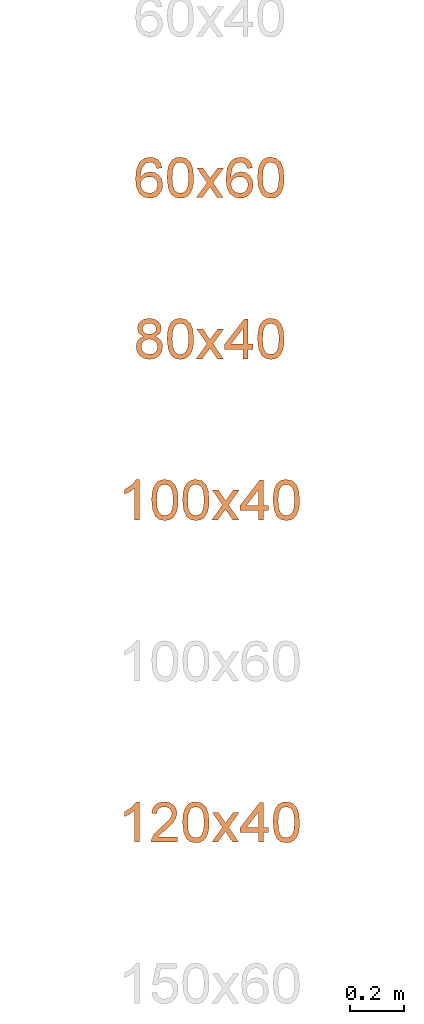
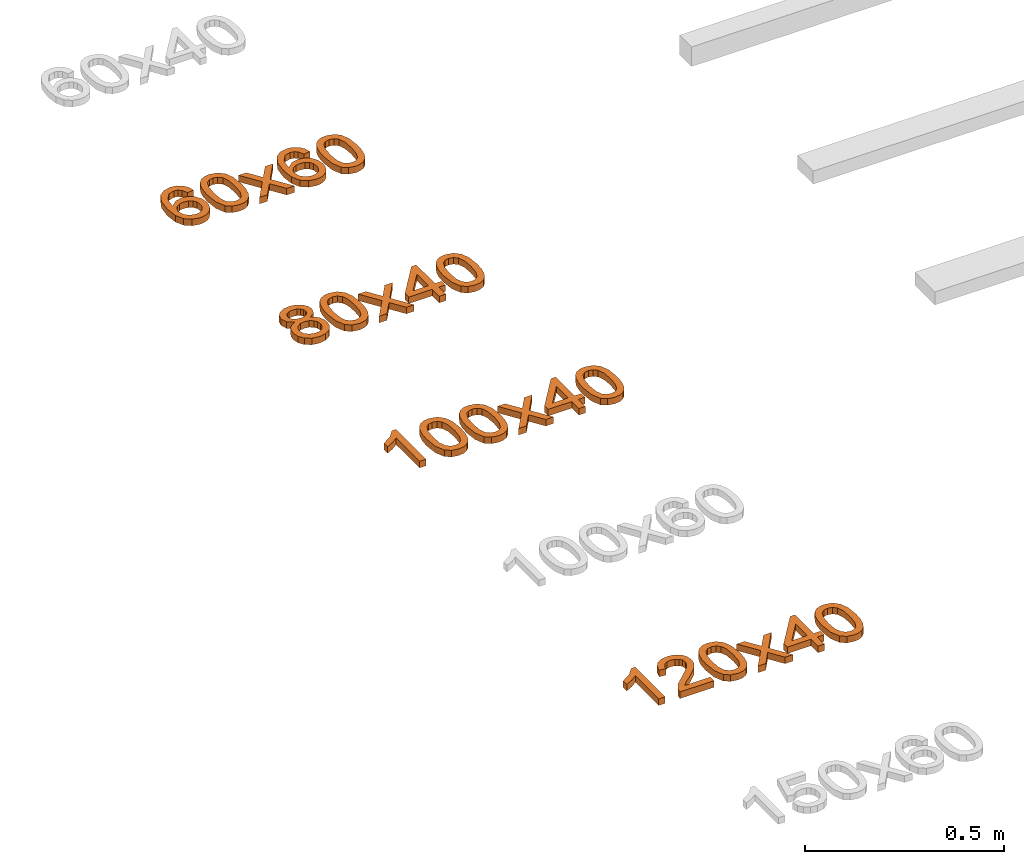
# One storey, part 39 of 71: 4 proxies.
"""IFC2X3 building model written with IfcOpenShell, lengths in millimetres."""

from ifc_helpers import new_model, entity, si_unit, converted_unit, derived_unit, direction, frame, origin, place, context, subcontext, project, spatial, polyline, outline, extrude, element, save


model = new_model("IFC2X3")

# Units and contexts
model_context = context("Model", 3, precision=0.01, world=origin(), true_north=direction((6.12303176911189e-17, 1.0)))
body_context = subcontext(model_context, "Body", "Model", "MODEL_VIEW")
ifc_project = project(units=[si_unit("LENGTHUNIT", "METRE", prefix="MILLI"), si_unit("AREAUNIT", "SQUARE_METRE"), si_unit("VOLUMEUNIT", "CUBIC_METRE"), converted_unit("PLANEANGLEUNIT", "DEGREE", entity("IfcRatioMeasure", 0.0174532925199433), si_unit("PLANEANGLEUNIT", "RADIAN"), dimensions=[0, 0, 0, 0, 0, 0, 0]), si_unit("MASSUNIT", "GRAM", prefix="KILO"), derived_unit("MASSDENSITYUNIT", [(si_unit("MASSUNIT", "GRAM", prefix="KILO"), 1), (si_unit("LENGTHUNIT", "METRE"), -3)]), si_unit("TIMEUNIT", "SECOND"), si_unit("FREQUENCYUNIT", "HERTZ"), si_unit("THERMODYNAMICTEMPERATUREUNIT", "DEGREE_CELSIUS"), derived_unit("THERMALTRANSMITTANCEUNIT", [(si_unit("MASSUNIT", "GRAM", prefix="KILO"), 1), (si_unit("THERMODYNAMICTEMPERATUREUNIT", "KELVIN"), -1), (si_unit("TIMEUNIT", "SECOND"), -3)]), derived_unit("VOLUMETRICFLOWRATEUNIT", [(si_unit("LENGTHUNIT", "METRE"), 3), (si_unit("TIMEUNIT", "SECOND"), -1)]), si_unit("ELECTRICCURRENTUNIT", "AMPERE"), si_unit("ELECTRICVOLTAGEUNIT", "VOLT"), si_unit("POWERUNIT", "WATT"), si_unit("FORCEUNIT", "NEWTON", prefix="KILO"), si_unit("ILLUMINANCEUNIT", "LUX"), si_unit("LUMINOUSFLUXUNIT", "LUMEN"), si_unit("LUMINOUSINTENSITYUNIT", "CANDELA"), derived_unit("USERDEFINED", [(si_unit("MASSUNIT", "GRAM", prefix="KILO"), -1), (si_unit("LENGTHUNIT", "METRE"), -2), (si_unit("TIMEUNIT", "SECOND"), 3), (si_unit("LUMINOUSFLUXUNIT", "LUMEN"), 1)]), derived_unit("LINEARVELOCITYUNIT", [(si_unit("LENGTHUNIT", "METRE"), 1), (si_unit("TIMEUNIT", "SECOND"), -1)]), si_unit("PRESSUREUNIT", "PASCAL"), derived_unit("USERDEFINED", [(si_unit("LENGTHUNIT", "METRE"), -2), (si_unit("MASSUNIT", "GRAM", prefix="KILO"), 1), (si_unit("TIMEUNIT", "SECOND"), -2)])], contexts=[model_context])

# Site, building, storey
site_placement = place(None, origin())
site = spatial("IfcSite", under=ifc_project, at=site_placement, Name="Default", CompositionType="ELEMENT")
building_placement = place(site_placement, origin())
building = spatial("IfcBuilding", under=site, at=building_placement, Name="Наименование здания", CompositionType="ELEMENT")
storey_placement = place(building_placement, origin())
storey = spatial("IfcBuildingStorey", under=building, at=storey_placement, Name="Этаж 01", CompositionType="ELEMENT", Elevation=0.0)

# Proxies
proxy_1_placement = place(storey_placement, origin())
element("IfcBuildingElementProxy", 1, at=proxy_1_placement, inside=storey, Name="Текст модели:150 мм Arial", ObjectType="Текст модели:150 мм Arial", context=body_context, shape_type="SweptSolid", body=[
    extrude(outline(polyline([(15.7651813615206, -48.1860315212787), (33.1249071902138, -48.1860315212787), (47.804831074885, -42.6335730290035), (59.0229904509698, -32.0086730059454), (65.9974227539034, -16.7913484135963), (67.6956688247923, 5.42313881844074), (59.7847369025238, 25.1274854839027), (38.3660112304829, 43.8886230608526), (3.31349801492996, 57.8763217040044), (-29.8328194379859, 63.2095238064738), (-54.3960837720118, 58.4629251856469), (-71.1715692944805, 45.4506503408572), (-80.9545503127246, 25.986823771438), (-82.9064235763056, 12.9662485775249), (-81.3947830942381, 0.493900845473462), (-76.4834467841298, -10.9544464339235), (-68.2362325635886, -20.9030202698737), (-57.43187982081, -28.7352219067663), (-44.849127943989, -33.8344525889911), (-25.3638110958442, -35.8072168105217), (-7.8909549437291, -30.3701056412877), (5.71390440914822, -18.9845116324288), (13.5952308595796, -3.11182733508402), (14.3582977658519, 18.0352208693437), (4.31104064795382, 38.0547274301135), (22.7539705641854, 31.4415369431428), (35.2322018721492, 23.9328881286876), (48.3021991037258, 6.96962517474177), (48.1600772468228, -10.6274852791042), (43.5144203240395, -20.0577002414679), (35.5694879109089, -26.7223178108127), (18.5256041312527, -29.4056766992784), (15.7651813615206, -48.1860315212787)]), holes=[polyline([(-22.561957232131, 45.5005718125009), (-11.8731662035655, 40.1101370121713), (-4.83626080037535, 30.873880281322), (-1.82438885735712, 19.269463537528), (-3.21069820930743, 6.77454869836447), (-8.64892762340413, -5.36116347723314), (-17.0855588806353, -13.3353919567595), (-27.8876946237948, -16.8272321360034), (-40.4224374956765, -15.5157794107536), (-52.3381234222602, -10.02399118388), (-60.2195132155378, -1.26951526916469), (-63.6992427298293, 9.83465865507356), (-62.4099478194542, 22.3755409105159), (-53.9591253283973, 37.6514284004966), (-39.4491697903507, 45.6559566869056), (-22.561957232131, 45.5005718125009)])]), frame((-460.531488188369, -438.012924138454, 0.0), z_axis=(0.0, 0.0, 1.0), x_axis=(-0.267015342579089, 0.963692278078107, 0.0)), (0.0, 0.0, 1.0), 20.0),
    extrude(outline(polyline([(-5.36864641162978, -49.447527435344), (31.473189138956, -49.447527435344), (57.9722440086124, -40.8445682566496), (70.1905944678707, -27.1554040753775), (75.7521595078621, -8.05118638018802), (75.248921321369, 7.30564672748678), (70.3444850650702, 20.2193667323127), (60.97866217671, 30.7793421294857), (47.0912640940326, 39.0749414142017), (28.4201328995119, 45.1191376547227), (4.70311067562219, 48.924903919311), (-30.869857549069, 49.1278168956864), (-53.9468348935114, 42.6152057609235), (-69.4194337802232, 28.9263997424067), (-76.4908890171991, 7.53605673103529), (-75.9929440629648, -7.73702828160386), (-71.1268691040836, -20.6190853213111), (-61.8036228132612, -31.1885692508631), (-47.9341638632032, -39.5239349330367), (-29.221501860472, -45.6139863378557), (-5.36864641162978, -49.447527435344)]), holes=[polyline([(-3.48681337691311, -30.7061745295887), (-32.34902840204, -25.4583554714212), (-49.9139452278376, -16.7816147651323), (-56.4697700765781, -6.58792162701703), (-57.7757646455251, 5.39804548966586), (-53.6620197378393, 17.494767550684), (-44.1234912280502, 26.4104625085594), (-26.2801372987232, 31.0181988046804), (2.74808386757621, 30.1910448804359), (31.9517393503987, 24.982228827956), (48.3451643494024, 16.6473131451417), (55.5066665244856, 6.00331299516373), (57.0145535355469, -6.13275645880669), (53.0878028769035, -17.7124062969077), (43.9453920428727, -26.6871475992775), (26.212220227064, -31.5280478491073), (-3.48681337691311, -30.7061745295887)])]), frame((-349.731782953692, -446.788835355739, 0.0), z_axis=(0.0, 0.0, 1.0), x_axis=(0.101851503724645, -0.994799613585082, 0.0)), (0.0, 0.0, 1.0), 20.0),
    extrude(outline(polyline([(-51.7953323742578, -57.6397510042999), (-29.1338014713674, -57.6397510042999), (-0.512582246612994, -18.0924365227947), (3.7180606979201, -24.1992776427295), (26.784261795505, -57.6397510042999), (49.4457926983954, -57.6397510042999), (11.1124888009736, -2.01599333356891), (50.9173206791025, 53.0191531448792), (28.2557897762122, 53.0191531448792), (7.43366884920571, 24.2507811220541), (0.0392407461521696, 14.0236616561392), (-8.49562154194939, 26.5316494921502), (-26.7793567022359, 53.0191531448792), (-49.4408876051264, 53.0191531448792), (-11.5490421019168, -2.01599333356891), (-51.7953323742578, -57.6397510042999)])), frame((-239.369177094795, -462.972884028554, 0.0)), (0.0, 0.0, 1.0), 20.0),
    extrude(outline(polyline([(15.7651813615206, -48.1860315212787), (33.1249071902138, -48.1860315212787), (47.804831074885, -42.6335730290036), (59.0229904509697, -32.0086730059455), (65.9974227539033, -16.7913484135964), (67.6956688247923, 5.42313881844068), (59.7847369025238, 25.1274854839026), (38.3660112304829, 43.8886230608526), (3.31349801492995, 57.8763217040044), (-29.8328194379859, 63.2095238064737), (-54.3960837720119, 58.4629251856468), (-71.1715692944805, 45.4506503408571), (-80.9545503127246, 25.9868237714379), (-82.9064235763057, 12.9662485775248), (-81.3947830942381, 0.493900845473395), (-76.4834467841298, -10.9544464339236), (-68.2362325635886, -20.9030202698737), (-57.43187982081, -28.7352219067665), (-44.8491279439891, -33.8344525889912), (-25.3638110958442, -35.8072168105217), (-7.89095494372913, -30.3701056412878), (5.7139044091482, -18.9845116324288), (13.5952308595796, -3.11182733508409), (14.3582977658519, 18.0352208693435), (4.3110406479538, 38.0547274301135), (22.7539705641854, 31.4415369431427), (35.2322018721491, 23.9328881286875), (48.3021991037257, 6.96962517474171), (48.1600772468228, -10.6274852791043), (43.5144203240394, -20.057700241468), (35.5694879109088, -26.7223178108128), (18.5256041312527, -29.4056766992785), (15.7651813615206, -48.1860315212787)]), holes=[polyline([(-22.561957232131, 45.5005718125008), (-11.8731662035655, 40.1101370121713), (-4.83626080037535, 30.873880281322), (-1.82438885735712, 19.269463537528), (-3.21069820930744, 6.7745486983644), (-8.64892762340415, -5.36116347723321), (-17.0855588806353, -13.3353919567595), (-27.8876946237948, -16.8272321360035), (-40.4224374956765, -15.5157794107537), (-52.3381234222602, -10.0239911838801), (-60.2195132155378, -1.26951526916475), (-63.6992427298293, 9.83465865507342), (-62.4099478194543, 22.3755409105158), (-53.9591253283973, 37.6514284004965), (-39.4491697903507, 45.6559566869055), (-22.561957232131, 45.5005718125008)])]), frame((-123.845886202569, -438.012924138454, 0.0), z_axis=(0.0, 0.0, 1.0), x_axis=(-0.267015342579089, 0.963692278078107, 0.0)), (0.0, 0.0, 1.0), 20.0),
    extrude(outline(polyline([(-5.36864641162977, -49.4475274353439), (31.473189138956, -49.4475274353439), (57.9722440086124, -40.8445682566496), (70.1905944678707, -27.1554040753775), (75.7521595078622, -8.05118638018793), (75.248921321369, 7.30564672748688), (70.3444850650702, 20.2193667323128), (60.97866217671, 30.7793421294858), (47.0912640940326, 39.0749414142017), (28.4201328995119, 45.1191376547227), (4.7031106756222, 48.924903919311), (-30.869857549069, 49.1278168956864), (-53.9468348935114, 42.6152057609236), (-69.4194337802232, 28.9263997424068), (-76.4908890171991, 7.53605673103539), (-75.9929440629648, -7.73702828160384), (-71.1268691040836, -20.619085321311), (-61.8036228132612, -31.188569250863), (-47.9341638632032, -39.5239349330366), (-29.221501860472, -45.6139863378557), (-5.36864641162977, -49.4475274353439)]), holes=[polyline([(-3.4868133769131, -30.7061745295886), (-32.34902840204, -25.4583554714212), (-49.9139452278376, -16.7816147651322), (-56.4697700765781, -6.58792162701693), (-57.775764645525, 5.39804548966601), (-53.6620197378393, 17.4947675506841), (-44.1234912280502, 26.4104625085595), (-26.2801372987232, 31.0181988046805), (2.74808386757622, 30.191044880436), (31.9517393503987, 24.9822288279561), (48.3451643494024, 16.6473131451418), (55.5066665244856, 6.00331299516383), (57.0145535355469, -6.1327564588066), (53.0878028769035, -17.7124062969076), (43.9453920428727, -26.6871475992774), (26.212220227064, -31.5280478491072), (-3.4868133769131, -30.7061745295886)])]), frame((-13.0461809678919, -446.788835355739, 0.0), z_axis=(0.0, 0.0, 1.0), x_axis=(0.101851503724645, -0.994799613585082, 0.0)), (0.0, 0.0, 1.0), 20.0),
])
proxy_2_placement = place(storey_placement, origin())
element("IfcBuildingElementProxy", 2, at=proxy_2_placement, inside=storey, Name="Текст модели:150 мм Arial", ObjectType="Текст модели:150 мм Arial", context=body_context, shape_type="SweptSolid", body=[
    extrude(outline(polyline([(17.249022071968, -15.3295381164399), (30.0349856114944, -15.3295381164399), (41.3817836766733, -11.1735131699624), (50.8793866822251, -3.10065381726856), (58.1177650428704, 8.64984940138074), (62.52743542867, 26.7590924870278), (59.3759035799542, 44.6472980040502), (49.1101665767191, 60.2581523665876), (32.1772214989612, 71.5353419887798), (12.508529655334, 76.7266949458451), (-5.96444764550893, 74.0800393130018), (-21.3768762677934, 64.6931270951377), (-31.8639220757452, 49.6637102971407), (-35.7012049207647, 36.9439614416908), (-35.5988562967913, 24.6212096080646), (-31.5092444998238, 13.1378871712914), (-23.3847378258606, 2.93642650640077), (-43.3753141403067, -0.843069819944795), (-55.6693480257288, -14.7778571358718), (-58.914337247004, -29.533523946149), (-55.5267704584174, -44.6086407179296), (-45.8768386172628, -58.1125066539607), (-30.3347326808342, -68.1544209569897), (-12.6345533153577, -73.1263902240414), (3.62381436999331, -71.4807545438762), (16.9172275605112, -64.1159404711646), (25.7225434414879, -51.9303745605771), (28.1053988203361, -33.0360683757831), (17.249022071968, -15.3295381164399)]), holes=[polyline([(8.76920273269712, -43.7043792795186), (4.16714657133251, -49.8033212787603), (-3.06267131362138, -53.4706515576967), (-12.2805835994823, -54.0460623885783), (-22.8469229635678, -50.8692460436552), (-32.1606477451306, -45.0741480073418), (-37.8220396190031, -37.7042135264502), (-39.8160813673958, -29.6232964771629), (-38.1277557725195, -21.6952507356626), (-33.488030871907, -15.4115704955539), (-26.3563739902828, -11.6597799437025), (-17.2378531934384, -11.0699406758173), (-6.63753654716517, -14.2721142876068), (3.02911931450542, -20.1905718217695), (8.74268775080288, -27.4780836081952), (10.6178288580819, -35.5206769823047), (8.76920273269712, -43.7043792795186)]), polyline([(40.666673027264, 15.7685663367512), (34.3444111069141, 6.5607294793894), (25.2119844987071, 0.81435470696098), (14.0709024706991, -0.741832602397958), (1.72267429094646, 2.62089292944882), (-9.27548616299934, 9.78324579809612), (-15.7623950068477, 19.3544397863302), (-17.6688539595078, 30.2546773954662), (-14.9256647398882, 41.404161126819), (-8.54368457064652, 50.7111976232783), (0.617063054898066, 56.4196324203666), (11.8179427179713, 57.8733123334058), (24.3203189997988, 54.4160841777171), (37.8139573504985, 44.2362363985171), (43.6124557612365, 29.993219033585), (40.666673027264, 15.7685663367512)])]), frame((-465.375028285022, -1044.52806910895, 0.0), z_axis=(0.0, 0.0, 1.0), x_axis=(-0.912082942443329, -0.410005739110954, 0.0)), (0.0, 0.0, 1.0), 20.0),
    extrude(outline(polyline([(-5.36864641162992, -49.447527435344), (31.4731891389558, -49.447527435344), (57.9722440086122, -40.8445682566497), (70.1905944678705, -27.1554040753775), (75.752159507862, -8.05118638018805), (75.2489213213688, 7.30564672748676), (70.3444850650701, 20.2193667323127), (60.9786621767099, 30.7793421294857), (47.0912640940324, 39.0749414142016), (28.4201328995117, 45.1191376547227), (4.70311067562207, 48.924903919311), (-30.8698575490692, 49.1278168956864), (-53.9468348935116, 42.6152057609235), (-69.4194337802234, 28.9263997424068), (-76.4908890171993, 7.53605673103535), (-75.992944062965, -7.7370282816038), (-71.1268691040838, -20.6190853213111), (-61.8036228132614, -31.1885692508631), (-47.9341638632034, -39.5239349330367), (-29.2215018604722, -45.6139863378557), (-5.36864641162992, -49.447527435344)]), holes=[polyline([(-3.48681337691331, -30.7061745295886), (-32.3490284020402, -25.4583554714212), (-49.9139452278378, -16.7816147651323), (-56.4697700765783, -6.58792162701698), (-57.7757646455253, 5.39804548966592), (-53.6620197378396, 17.4947675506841), (-44.1234912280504, 26.4104625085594), (-26.2801372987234, 31.0181988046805), (2.74808386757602, 30.1910448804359), (31.9517393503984, 24.982228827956), (48.3451643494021, 16.6473131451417), (55.5066665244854, 6.00331299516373), (57.0145535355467, -6.1327564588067), (53.0878028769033, -17.7124062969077), (43.9453920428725, -26.6871475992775), (26.2122202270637, -31.5280478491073), (-3.48681337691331, -30.7061745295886)])]), frame((-349.731782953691, -1046.78883535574, 0.0), z_axis=(0.0, 0.0, 1.0), x_axis=(0.101851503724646, -0.994799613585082, 0.0)), (0.0, 0.0, 1.0), 20.0),
    extrude(outline(polyline([(-51.7953323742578, -57.6397510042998), (-29.1338014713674, -57.6397510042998), (-0.512582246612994, -18.0924365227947), (3.7180606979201, -24.1992776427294), (26.784261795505, -57.6397510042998), (49.4457926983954, -57.6397510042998), (11.1124888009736, -2.01599333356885), (50.9173206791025, 53.0191531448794), (28.2557897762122, 53.0191531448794), (7.43366884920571, 24.2507811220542), (0.0392407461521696, 14.0236616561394), (-8.49562154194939, 26.5316494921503), (-26.7793567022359, 53.0191531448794), (-49.4408876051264, 53.0191531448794), (-11.5490421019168, -2.01599333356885), (-51.7953323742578, -57.6397510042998)])), frame((-239.369177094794, -1062.97288402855, 0.0)), (0.0, 0.0, 1.0), 20.0),
    extrude(outline(polyline([(-1.71232346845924, -54.5803105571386), (17.1232346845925, -54.5803105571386), (17.1232346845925, -19.2636390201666), (35.9587928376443, -19.2636390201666), (35.9587928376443, -0.428080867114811), (17.1232346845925, -0.428080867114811), (17.1232346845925, 93.7497098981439), (2.99656606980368, 93.7497098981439), (-69.9912217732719, -0.428080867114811), (-69.9912217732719, -19.2636390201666), (-1.71232346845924, -19.2636390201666), (-1.71232346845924, -54.5803105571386)]), holes=[polyline([(-1.71232346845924, -0.428080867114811), (-46.814656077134, -0.428080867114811), (-1.71232346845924, 57.7708507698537), (-1.71232346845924, -0.428080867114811)])]), frame((-115.223273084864, -1066.03232447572, 0.0)), (0.0, 0.0, 1.0), 20.0),
    extrude(outline(polyline([(-5.36864641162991, -49.4475274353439), (31.4731891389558, -49.4475274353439), (57.9722440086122, -40.8445682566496), (70.1905944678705, -27.1554040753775), (75.752159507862, -8.05118638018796), (75.2489213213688, 7.30564672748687), (70.3444850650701, 20.2193667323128), (60.9786621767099, 30.7793421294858), (47.0912640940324, 39.0749414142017), (28.4201328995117, 45.1191376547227), (4.70311067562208, 48.9249039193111), (-30.8698575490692, 49.1278168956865), (-53.9468348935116, 42.6152057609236), (-69.4194337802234, 28.9263997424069), (-76.4908890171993, 7.53605673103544), (-75.992944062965, -7.73702828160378), (-71.1268691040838, -20.619085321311), (-61.8036228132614, -31.188569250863), (-47.9341638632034, -39.5239349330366), (-29.2215018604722, -45.6139863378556), (-5.36864641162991, -49.4475274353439)]), holes=[polyline([(-3.4868133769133, -30.7061745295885), (-32.3490284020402, -25.4583554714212), (-49.9139452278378, -16.7816147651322), (-56.4697700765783, -6.58792162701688), (-57.7757646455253, 5.39804548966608), (-53.6620197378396, 17.4947675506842), (-44.1234912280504, 26.4104625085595), (-26.2801372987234, 31.0181988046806), (2.74808386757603, 30.191044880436), (31.9517393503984, 24.9822288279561), (48.3451643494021, 16.6473131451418), (55.5066665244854, 6.00331299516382), (57.0145535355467, -6.13275645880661), (53.0878028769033, -17.7124062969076), (43.9453920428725, -26.6871475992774), (26.2122202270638, -31.5280478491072), (-3.4868133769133, -30.7061745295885)])]), frame((-13.0461809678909, -1046.78883535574, 0.0), z_axis=(0.0, 0.0, 1.0), x_axis=(0.101851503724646, -0.994799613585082, 0.0)), (0.0, 0.0, 1.0), 20.0),
])
proxy_3_placement = place(storey_placement, origin())
element("IfcBuildingElementProxy", 3, at=proxy_3_placement, inside=storey, Name="Текст модели:150 мм Arial", ObjectType="Текст модели:150 мм Arial", context=body_context, shape_type="SweptSolid", body=[
    extrude(outline(polyline([(-95.8189532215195, -25.3777263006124), (54.8655120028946, -25.3777263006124), (54.8655120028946, -13.2376204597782), (34.8159432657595, 3.51940442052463), (17.1943956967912, 31.1289481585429), (-0.611092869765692, 31.1289481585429), (8.89865670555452, 11.3001086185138), (21.6089796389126, -6.54216814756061), (-95.8189532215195, -6.54216814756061), (-95.8189532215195, -25.3777263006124)])), frame((-527.265042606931, -1624.79368181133, 0.0), z_axis=(0.0, 0.0, 1.0), x_axis=(0.0, 1.0, 0.0)), (0.0, 0.0, 1.0), 20.0),
    extrude(outline(polyline([(-5.36864641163, -49.4475274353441), (31.4731891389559, -49.447527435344), (57.9722440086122, -40.8445682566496), (70.1905944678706, -27.1554040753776), (75.752159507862, -8.05118638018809), (75.2489213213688, 7.30564672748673), (70.34448506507, 20.2193667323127), (60.9786621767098, 30.7793421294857), (47.0912640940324, 39.0749414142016), (28.4201328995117, 45.1191376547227), (4.70311067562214, 48.924903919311), (-30.869857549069, 49.1278168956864), (-53.9468348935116, 42.6152057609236), (-69.4194337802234, 28.9263997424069), (-76.4908890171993, 7.53605673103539), (-75.9929440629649, -7.73702828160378), (-71.126869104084, -20.619085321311), (-61.8036228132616, -31.188569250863), (-47.9341638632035, -39.5239349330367), (-29.2215018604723, -45.6139863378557), (-5.36864641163, -49.4475274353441)]), holes=[polyline([(-3.48681337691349, -30.7061745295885), (-32.3490284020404, -25.4583554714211), (-49.9139452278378, -16.7816147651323), (-56.4697700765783, -6.58792162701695), (-57.7757646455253, 5.39804548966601), (-53.6620197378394, 17.4947675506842), (-44.1234912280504, 26.4104625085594), (-26.2801372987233, 31.0181988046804), (2.74808386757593, 30.1910448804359), (31.9517393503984, 24.9822288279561), (48.3451643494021, 16.6473131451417), (55.5066665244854, 6.0033129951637), (57.0145535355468, -6.13275645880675), (53.0878028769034, -17.7124062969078), (43.9453920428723, -26.6871475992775), (26.2122202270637, -31.5280478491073), (-3.48681337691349, -30.7061745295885)])]), frame((-407.415679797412, -1646.78883535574, 0.0), z_axis=(0.0, 0.0, 1.0), x_axis=(0.101851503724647, -0.994799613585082, 0.0)), (0.0, 0.0, 1.0), 20.0),
    extrude(outline(polyline([(-5.3686464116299, -49.447527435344), (31.473189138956, -49.447527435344), (57.9722440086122, -40.8445682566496), (70.1905944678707, -27.1554040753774), (75.752159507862, -8.05118638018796), (75.2489213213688, 7.30564672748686), (70.3444850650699, 20.2193667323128), (60.9786621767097, 30.7793421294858), (47.0912640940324, 39.0749414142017), (28.4201328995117, 45.1191376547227), (4.70311067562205, 48.924903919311), (-30.8698575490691, 49.1278168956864), (-53.9468348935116, 42.6152057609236), (-69.4194337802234, 28.9263997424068), (-76.4908890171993, 7.53605673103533), (-75.9929440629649, -7.7370282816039), (-71.1268691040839, -20.6190853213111), (-61.8036228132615, -31.1885692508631), (-47.9341638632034, -39.5239349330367), (-29.2215018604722, -45.6139863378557), (-5.3686464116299, -49.447527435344)]), holes=[polyline([(-3.48681337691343, -30.7061745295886), (-32.3490284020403, -25.4583554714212), (-49.9139452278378, -16.7816147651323), (-56.4697700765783, -6.58792162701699), (-57.7757646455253, 5.39804548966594), (-53.6620197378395, 17.4947675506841), (-44.1234912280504, 26.4104625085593), (-26.2801372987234, 31.0181988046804), (2.74808386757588, 30.191044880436), (31.9517393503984, 24.9822288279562), (48.3451643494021, 16.6473131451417), (55.5066665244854, 6.00331299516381), (57.0145535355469, -6.13275645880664), (53.0878028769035, -17.7124062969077), (43.9453920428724, -26.6871475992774), (26.2122202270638, -31.5280478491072), (-3.48681337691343, -30.7061745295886)])]), frame((-292.04788610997, -1646.78883535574, 0.0), z_axis=(0.0, 0.0, 1.0), x_axis=(0.101851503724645, -0.994799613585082, 0.0)), (0.0, 0.0, 1.0), 20.0),
    extrude(outline(polyline([(-51.7953323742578, -57.6397510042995), (-29.1338014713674, -57.6397510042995), (-0.512582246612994, -18.0924365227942), (3.71806069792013, -24.199277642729), (26.784261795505, -57.6397510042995), (49.4457926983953, -57.6397510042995), (11.1124888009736, -2.01599333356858), (50.9173206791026, 53.0191531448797), (28.2557897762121, 53.0191531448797), (7.43366884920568, 24.2507811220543), (0.0392407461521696, 14.0236616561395), (-8.49562154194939, 26.5316494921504), (-26.779356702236, 53.0191531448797), (-49.4408876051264, 53.0191531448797), (-11.5490421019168, -2.01599333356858), (-51.7953323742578, -57.6397510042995)])), frame((-181.685280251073, -1662.97288402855, 0.0)), (0.0, 0.0, 1.0), 20.0),
    extrude(outline(polyline([(-1.71232346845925, -54.5803105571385), (17.1232346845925, -54.5803105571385), (17.1232346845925, -19.2636390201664), (35.9587928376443, -19.2636390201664), (35.9587928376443, -0.428080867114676), (17.1232346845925, -0.428080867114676), (17.1232346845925, 93.7497098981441), (2.99656606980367, 93.7497098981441), (-69.9912217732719, -0.428080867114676), (-69.9912217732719, -19.2636390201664), (-1.71232346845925, -19.2636390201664), (-1.71232346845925, -54.5803105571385)]), holes=[polyline([(-1.71232346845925, -0.428080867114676), (-46.814656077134, -0.428080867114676), (-1.71232346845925, 57.7708507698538), (-1.71232346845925, -0.428080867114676)])]), frame((-57.5393762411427, -1666.03232447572, 0.0)), (0.0, 0.0, 1.0), 20.0),
    extrude(outline(polyline([(-5.36864641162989, -49.4475274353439), (31.473189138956, -49.4475274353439), (57.9722440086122, -40.8445682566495), (70.1905944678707, -27.1554040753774), (75.752159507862, -8.05118638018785), (75.2489213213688, 7.30564672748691), (70.3444850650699, 20.2193667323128), (60.9786621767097, 30.7793421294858), (47.0912640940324, 39.0749414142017), (28.4201328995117, 45.1191376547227), (4.70311067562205, 48.924903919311), (-30.8698575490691, 49.1278168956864), (-53.9468348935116, 42.6152057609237), (-69.4194337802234, 28.9263997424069), (-76.4908890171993, 7.53605673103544), (-75.9929440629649, -7.73702828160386), (-71.1268691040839, -20.619085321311), (-61.8036228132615, -31.188569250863), (-47.9341638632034, -39.5239349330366), (-29.2215018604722, -45.6139863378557), (-5.36864641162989, -49.4475274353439)]), holes=[polyline([(-3.48681337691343, -30.7061745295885), (-32.3490284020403, -25.4583554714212), (-49.9139452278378, -16.7816147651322), (-56.4697700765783, -6.58792162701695), (-57.7757646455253, 5.39804548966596), (-53.6620197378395, 17.4947675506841), (-44.1234912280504, 26.4104625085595), (-26.2801372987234, 31.0181988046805), (2.74808386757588, 30.191044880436), (31.9517393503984, 24.9822288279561), (48.3451643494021, 16.6473131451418), (55.5066665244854, 6.00331299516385), (57.0145535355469, -6.13275645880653), (53.0878028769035, -17.7124062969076), (43.9453920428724, -26.6871475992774), (26.2122202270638, -31.5280478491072), (-3.48681337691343, -30.7061745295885)])]), frame((44.6377158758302, -1646.78883535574, 0.0), z_axis=(0.0, 0.0, 1.0), x_axis=(0.101851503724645, -0.994799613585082, 0.0)), (0.0, 0.0, 1.0), 20.0),
])
proxy_4_placement = place(storey_placement, origin())
element("IfcBuildingElementProxy", 4, at=proxy_4_placement, inside=storey, Name="Текст модели:150 мм Arial", ObjectType="Текст модели:150 мм Arial", context=body_context, shape_type="SweptSolid", body=[
    extrude(outline(polyline([(-95.8189532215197, -25.3777263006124), (54.8655120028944, -25.3777263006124), (54.8655120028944, -13.2376204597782), (34.8159432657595, 3.51940442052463), (17.194395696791, 31.1289481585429), (-0.611092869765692, 31.1289481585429), (8.89865670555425, 11.3001086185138), (21.6089796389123, -6.54216814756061), (-95.8189532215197, -6.54216814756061), (-95.8189532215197, -25.3777263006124)])), frame((-527.265042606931, -2824.79368181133, 0.0), z_axis=(0.0, 0.0, 1.0), x_axis=(0.0, 1.0, 0.0)), (0.0, 0.0, 1.0), 20.0),
    extrude(outline(polyline([(-47.8510638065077, -72.8483486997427), (-47.8510638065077, -91.6839068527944), (51.0356164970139, -91.6839068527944), (49.0122655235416, -78.6976724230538), (37.5711354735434, -58.7032859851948), (13.989899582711, -36.8694895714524), (-18.5308687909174, -5.48915538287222), (-24.6285128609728, 5.32657527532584), (-26.6610608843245, 15.8480003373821), (-24.7434759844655, 25.2795749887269), (-18.9907212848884, 33.1200600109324), (-10.1477578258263, 38.4037651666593), (1.04045335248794, 40.165000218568), (12.7896845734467, 38.4451518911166), (21.9177565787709, 33.2856069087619), (27.8084670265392, 25.0910354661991), (29.8456135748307, 14.266107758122), (48.6811717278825, 16.6205525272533), (44.1148364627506, 34.8399083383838), (34.2418034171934, 48.1480395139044), (19.5771073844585, 56.2874286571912), (0.635783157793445, 59.0005583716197), (-18.4434968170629, 55.9839260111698), (-33.0806017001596, 46.9340289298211), (-42.3926147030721, 33.4143656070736), (-45.4966190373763, 16.9884345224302), (-42.1488928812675, -0.872236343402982), (-31.0204625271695, -19.3399125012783), (-4.03631818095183, -45.14683446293), (17.6319313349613, -63.265022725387), (26.1300054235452, -72.8483486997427), (-47.8510638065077, -72.8483486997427)])), frame((-408.471693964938, -2828.92872818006, 0.0), z_axis=(0.0, 0.0, -1.0), x_axis=(-1.0, 0.0, 0.0)), (0.0, 0.0, -1.0), 20.0),
    extrude(outline(polyline([(-5.36864641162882, -49.4475274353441), (31.473189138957, -49.4475274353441), (57.9722440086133, -40.8445682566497), (70.1905944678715, -27.1554040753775), (75.7521595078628, -8.05118638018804), (75.2489213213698, 7.30564672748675), (70.344485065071, 20.2193667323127), (60.9786621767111, 30.7793421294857), (47.0912640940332, 39.0749414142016), (28.420132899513, 45.1191376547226), (4.70311067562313, 48.9249039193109), (-30.8698575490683, 49.1278168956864), (-53.9468348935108, 42.6152057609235), (-69.4194337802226, 28.9263997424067), (-76.4908890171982, 7.53605673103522), (-75.992944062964, -7.73702828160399), (-71.1268691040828, -20.6190853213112), (-61.8036228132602, -31.1885692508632), (-47.9341638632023, -39.5239349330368), (-29.2215018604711, -45.6139863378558), (-5.36864641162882, -49.4475274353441)]), holes=[polyline([(-3.48681337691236, -30.7061745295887), (-32.3490284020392, -25.4583554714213), (-49.9139452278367, -16.7816147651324), (-56.4697700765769, -6.58792162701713), (-57.7757646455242, 5.39804548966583), (-53.6620197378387, 17.494767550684), (-44.1234912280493, 26.4104625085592), (-26.2801372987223, 31.0181988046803), (2.74808386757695, 30.1910448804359), (31.9517393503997, 24.982228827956), (48.3451643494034, 16.6473131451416), (55.5066665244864, 6.0033129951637), (57.0145535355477, -6.13275645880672), (53.0878028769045, -17.7124062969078), (43.9453920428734, -26.6871475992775), (26.2122202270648, -31.5280478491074), (-3.48681337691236, -30.7061745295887)])]), frame((-292.04788610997, -2846.78883535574, 0.0), z_axis=(0.0, 0.0, 1.0), x_axis=(0.101851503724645, -0.994799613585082, 0.0)), (0.0, 0.0, 1.0), 20.0),
    extrude(outline(polyline([(-51.7953323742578, -57.6397510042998), (-29.1338014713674, -57.6397510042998), (-0.512582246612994, -18.0924365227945), (3.71806069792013, -24.1992776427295), (26.784261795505, -57.6397510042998), (49.4457926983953, -57.6397510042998), (11.1124888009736, -2.01599333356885), (50.9173206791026, 53.0191531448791), (28.2557897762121, 53.0191531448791), (7.43366884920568, 24.2507811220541), (0.0392407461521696, 14.0236616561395), (-8.49562154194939, 26.5316494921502), (-26.779356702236, 53.0191531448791), (-49.4408876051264, 53.0191531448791), (-11.5490421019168, -2.01599333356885), (-51.7953323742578, -57.6397510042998)])), frame((-181.685280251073, -2862.97288402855, 0.0)), (0.0, 0.0, 1.0), 20.0),
    extrude(outline(polyline([(-1.71232346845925, -54.5803105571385), (17.1232346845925, -54.5803105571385), (17.1232346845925, -19.2636390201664), (35.9587928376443, -19.2636390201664), (35.9587928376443, -0.428080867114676), (17.1232346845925, -0.428080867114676), (17.1232346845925, 93.7497098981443), (2.99656606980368, 93.7497098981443), (-69.9912217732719, -0.428080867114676), (-69.9912217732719, -19.2636390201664), (-1.71232346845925, -19.2636390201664), (-1.71232346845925, -54.5803105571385)]), holes=[polyline([(-1.71232346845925, -0.428080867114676), (-46.814656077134, -0.428080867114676), (-1.71232346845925, 57.7708507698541), (-1.71232346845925, -0.428080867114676)])]), frame((-57.5393762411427, -2866.03232447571, 0.0)), (0.0, 0.0, 1.0), 20.0),
    extrude(outline(polyline([(-5.36864641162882, -49.447527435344), (31.473189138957, -49.4475274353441), (57.9722440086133, -40.8445682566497), (70.1905944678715, -27.1554040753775), (75.7521595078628, -8.05118638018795), (75.2489213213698, 7.30564672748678), (70.344485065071, 20.2193667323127), (60.9786621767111, 30.7793421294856), (47.0912640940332, 39.0749414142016), (28.420132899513, 45.1191376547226), (4.70311067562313, 48.9249039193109), (-30.8698575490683, 49.1278168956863), (-53.9468348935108, 42.6152057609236), (-69.4194337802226, 28.9263997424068), (-76.4908890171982, 7.53605673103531), (-75.992944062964, -7.73702828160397), (-71.1268691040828, -20.6190853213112), (-61.8036228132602, -31.1885692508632), (-47.9341638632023, -39.5239349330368), (-29.2215018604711, -45.6139863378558), (-5.36864641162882, -49.447527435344)]), holes=[polyline([(-3.48681337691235, -30.7061745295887), (-32.3490284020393, -25.4583554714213), (-49.9139452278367, -16.7816147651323), (-56.4697700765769, -6.5879216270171), (-57.7757646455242, 5.39804548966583), (-53.6620197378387, 17.494767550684), (-44.1234912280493, 26.4104625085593), (-26.2801372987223, 31.0181988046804), (2.74808386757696, 30.1910448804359), (31.9517393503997, 24.982228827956), (48.3451643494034, 16.6473131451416), (55.5066665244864, 6.00331299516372), (57.0145535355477, -6.13275645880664), (53.0878028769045, -17.7124062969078), (43.9453920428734, -26.6871475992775), (26.2122202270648, -31.5280478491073), (-3.48681337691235, -30.7061745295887)])]), frame((44.6377158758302, -2846.78883535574, 0.0), z_axis=(0.0, 0.0, 1.0), x_axis=(0.101851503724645, -0.994799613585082, 0.0)), (0.0, 0.0, 1.0), 20.0),
])

save(model, "model.ifc")
